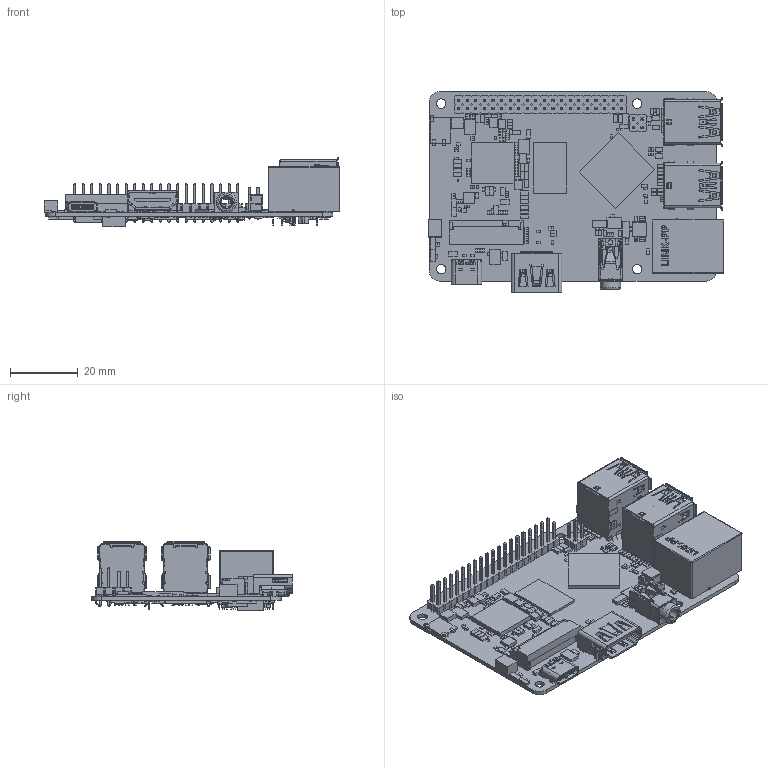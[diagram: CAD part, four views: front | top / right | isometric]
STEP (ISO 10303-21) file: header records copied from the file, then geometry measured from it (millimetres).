
FILE_DESCRIPTION((''),'2;1');
FILE_NAME('ROCK_3C_ASM','2023-08-23T18:45:23',('admin'),(''),'CREO PARAMETRIC BY PTC INC, 2023072','CREO PARAMETRIC BY PTC INC, 2023072','');
FILE_SCHEMA(('CONFIG_CONTROL_DESIGN','SHAPE_APPEARANCE_LAYERS_GROUPS'));
Products named in the file (56): ROCK_3C; BGA565_15R50X14R40X0R90; R0201; GB042-34-G; ESD0402_1XD5; C0201; ANT_JACK; L0402; C0402; C0603; 0603; CRY4_3R20X2R50X0R80; CSP20_1R96X1R56X0R66; SOT23; SLP2510P8; QFN40_5R00X5R00X0R90_T; IND_252010; RP2_0405; LED0603; BGA200_15R00X10R00X0R90; SOT_323; QFN68_7R00X7R00X0R80_T; R0402; R0805; R0603; SOP8-225-50B; WSON_8_6X5_9; SOT25; SOT_23_5; TP_0R70; CRY-3215; CSP-12; GMDG-6PIN_ESD; R1206; TDFN_3X3_12L; MD44_AP6XXX; SOT723; SOT_23; TS018B-; SOD_323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
Assembly tree (621 placements, depth 2):
  ROCK_3C_ASM
    ROCK_3C
    BGA565_15R50X14R40X0R90
    R0201  x182
    GB042-34-G
    ESD0402_1XD5  x32
    C0201  x194
    ANT_JACK
    L0402
    C0402  x27
    C0603  x67
    0603
    CRY4_3R20X2R50X0R80  x3
    CSP20_1R96X1R56X0R66
    SOT23  x2
    SLP2510P8  x2
    QFN40_5R00X5R00X0R90_T
    IND_252010  x9
    RP2_0405  x5
    LED0603  x2
    BGA200_15R00X10R00X0R90
    SOT_323  x2
    QFN68_7R00X7R00X0R80_T
    R0402  x24
    R0805
    R0603  x3
    SOP8-225-50B
    WSON_8_6X5_9
    SOT25
    SOT_23_5  x5
    TP_0R70  x16
    CRY-3215
    CSP-12
    GMDG-6PIN_ESD  x4
    R1206  x2
    TDFN_3X3_12L
    MD44_AP6XXX
    SOT723  x3
    SOT_23
    TS018B-
    SOD_323
    SMD_TF-008
    ANT-DUAL
    SOD_123
    IND-0618
    3C_TOP
    3C_BOT
    PRT0001  x2
    LPJG0926HENL
    000_9
    PJ-322YBC_1_00
    USB-16PIN-TYPEC_FIN_1_252_2_5
    123123_3
    WT125AL-024C-0W_3_
    00_4_2
    S40BA_1_2_1_2_1_1
Bounding box: 87.51 x 59.31 x 20.46 mm (x, y, z)
Volume: 18620.2 mm3; surface area: 29844.9 mm2
Topology: 620 solids, 622 shells, 8880 faces, 21711 edges, 14187 vertices
Faces by surface type: plane 7638, cylinder 1058, bspline 110, extrusion 25, sphere 20, torus 17, cone 9, revolution 3
Entity records: 160956 total; most frequent: CARTESIAN_POINT 29719, ORIENTED_EDGE 24194, DIRECTION 23389, EDGE_CURVE 12097, VECTOR 10110, LINE 10085, VERTEX_POINT 7846, AXIS2_PLACEMENT_3D 6638
